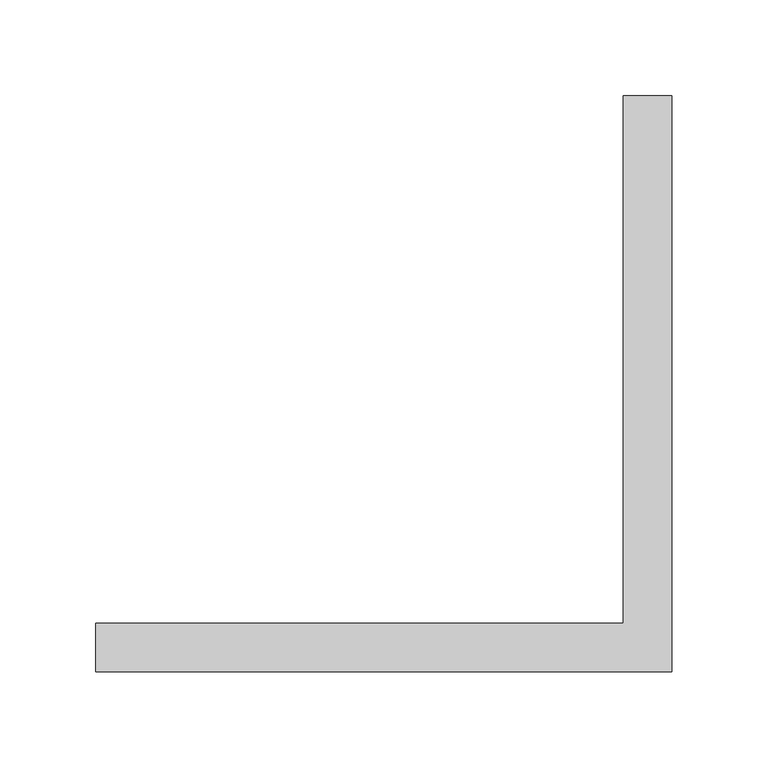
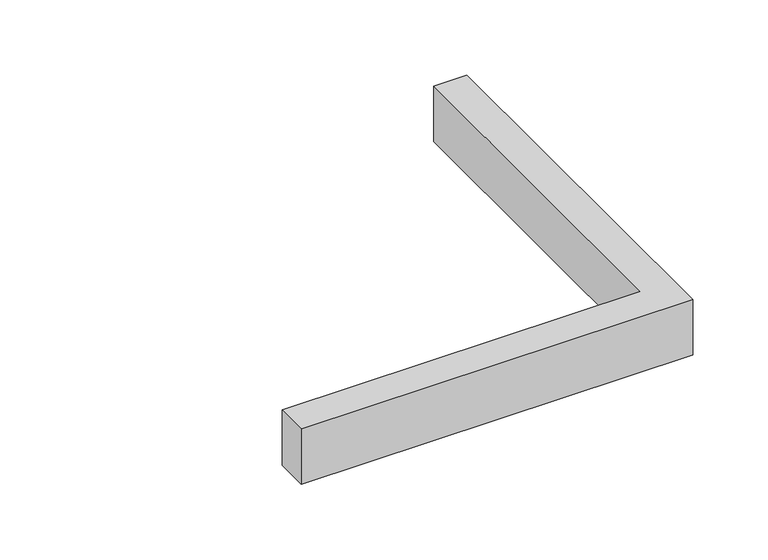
"""IFC4 building model written with IfcOpenShell, lengths in millimetres: cable carrier fitting geometry, BAKS_LD_BEND_2 x Angle connector_LKD : 2 x LKDC_H45."""

from ifc_helpers import new_model, si_unit, frame, origin, place, context, project, spatial, polyline, outline, extrude, source, transform, mapped, element, save


def cable_carrier_fitting_7f83391f(model_context):
    return source(origin(), model_context, "Body", "SweptSolid", [
        extrude(outline(polyline([(-150.0010517, -150.0), (-150.0010517, -124.6), (124.6008736, -124.6), (124.5989483, 150.0019253), (149.9989483, 150.0021034), (150.0010517, -150.0), (-150.0010517, -150.0)])), frame((0.0, 0.0, -22.5), z_axis=(0.0, 0.0, 1.0), x_axis=(1.0, 0.0, 0.0)), (0.0, 0.0, 1.0), 45.0),
    ])


if __name__ == "__main__":
    model = new_model("IFC4")
    model_context = context("Model", 3, world=origin())
    ifc_project = project(units=[si_unit("LENGTHUNIT", "METRE", prefix="MILLI")], contexts=[model_context])
    site = spatial("IfcSite", under=ifc_project)
    building = spatial("IfcBuilding", under=site)
    placement = place(None, origin())
    cable_carrier_fitting_shape = cable_carrier_fitting_7f83391f(model_context)
    element("IfcCableCarrierFitting", 1, ObjectType="BAKS_LD_BEND_2 x Angle connector_LKD : 2 x LKDC_H45", at=placement, inside=building, context=model_context, shape_type="MappedRepresentation", body=[
        mapped(cable_carrier_fitting_shape, transform((0.0, 0.0, 0.0), x_axis=(1.0, 0.0, 0.0), y_axis=(0.0, 1.0, 0.0), z_axis=(0.0, 0.0, 1.0))),
    ])
    save(model, "model.ifc")
